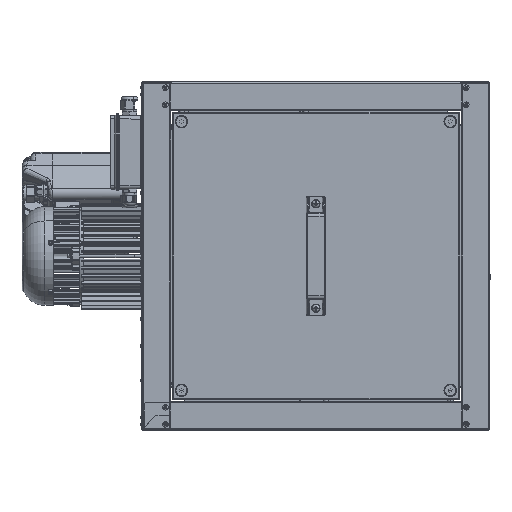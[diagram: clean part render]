
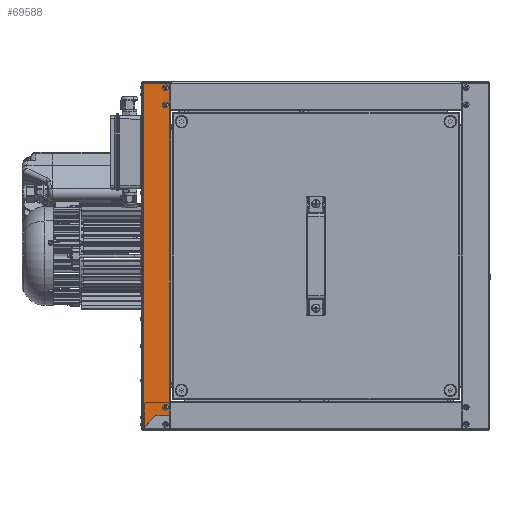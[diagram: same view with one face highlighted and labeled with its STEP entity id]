
A CAD part, left-side view. The second image highlights one B-rep face of the part: STEP entity #69588.
In plain terms, the highlighted planar face has unit normal (-1, 0, 0).
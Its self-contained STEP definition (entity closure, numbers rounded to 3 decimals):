
#478 = EDGE_CURVE ( 'NONE', #45723, #86056, #52253, .T. ) ;
#682 = AXIS2_PLACEMENT_3D ( 'NONE', #77820, #16015, #88261 ) ;
#1543 = VERTEX_POINT ( 'NONE', #17114 ) ;
#2899 = LINE ( 'NONE', #118505, #133690 ) ;
#4737 = DIRECTION ( 'NONE',  ( -1., 0., 0. ) ) ;
#5638 = VERTEX_POINT ( 'NONE', #110976 ) ;
#5734 = ORIENTED_EDGE ( 'NONE', *, *, #61051, .T. ) ;
#5965 = FACE_BOUND ( 'NONE', #29570, .T. ) ;
#6253 = CARTESIAN_POINT ( 'NONE',  ( -250., 248., 248. ) ) ;
#6944 = AXIS2_PLACEMENT_3D ( 'NONE', #104564, #125286, #46707 ) ;
#9252 = FACE_OUTER_BOUND ( 'NONE', #44611, .T. ) ;
#13861 = ORIENTED_EDGE ( 'NONE', *, *, #29785, .F. ) ;
#13980 = CARTESIAN_POINT ( 'NONE',  ( -250., 210.7, -210.05 ) ) ;
#14455 = VECTOR ( 'NONE', #125288, 1000. ) ;
#15220 = CARTESIAN_POINT ( 'NONE',  ( -250., 210.2, -229.1 ) ) ;
#15346 = VERTEX_POINT ( 'NONE', #131960 ) ;
#16015 = DIRECTION ( 'NONE',  ( -1., 0., 0. ) ) ;
#16093 = CARTESIAN_POINT ( 'NONE',  ( -250., 248., 248.95 ) ) ;
#16472 = DIRECTION ( 'NONE',  ( 0., 1., 0. ) ) ;
#16616 = DIRECTION ( 'NONE',  ( -1., 0., 0. ) ) ;
#17114 = CARTESIAN_POINT ( 'NONE',  ( -250., 210.2, -210.05 ) ) ;
#17223 = VERTEX_POINT ( 'NONE', #67642 ) ;
#18063 = VERTEX_POINT ( 'NONE', #59134 ) ;
#19103 = ORIENTED_EDGE ( 'NONE', *, *, #125188, .T. ) ;
#20133 = VERTEX_POINT ( 'NONE', #59035 ) ;
#21308 = ORIENTED_EDGE ( 'NONE', *, *, #125317, .T. ) ;
#21849 = DIRECTION ( 'NONE',  ( -1., 0., 0. ) ) ;
#23789 = VECTOR ( 'NONE', #16472, 1000. ) ;
#25619 = DIRECTION ( 'NONE',  ( 0., -1., 0. ) ) ;
#26824 = CARTESIAN_POINT ( 'NONE',  ( -250., 210.7, -210.05 ) ) ;
#27704 = CARTESIAN_POINT ( 'NONE',  ( -250., 210.2, -210.05 ) ) ;
#28616 = CIRCLE ( 'NONE', #49507, 2.1 ) ;
#29011 = CARTESIAN_POINT ( 'NONE',  ( -250., 216., 217.2 ) ) ;
#29444 = DIRECTION ( 'NONE',  ( 0., 1., 0. ) ) ;
#29510 = CIRCLE ( 'NONE', #55984, 2.1 ) ;
#29537 = LINE ( 'NONE', #15220, #108612 ) ;
#29570 = EDGE_LOOP ( 'NONE', ( #84081, #75514 ) ) ;
#29785 = EDGE_CURVE ( 'NONE', #18063, #45254, #79105, .T. ) ;
#31989 = EDGE_LOOP ( 'NONE', ( #87310, #123471 ) ) ;
#33372 = FACE_BOUND ( 'NONE', #57392, .T. ) ;
#36059 = CARTESIAN_POINT ( 'NONE',  ( -250., 213.9, 217.2 ) ) ;
#36177 = ORIENTED_EDGE ( 'NONE', *, *, #103332, .F. ) ;
#37910 = CIRCLE ( 'NONE', #45535, 2.1 ) ;
#38052 = DIRECTION ( 'NONE',  ( 0., 0., 1. ) ) ;
#39249 = VECTOR ( 'NONE', #116748, 1000. ) ;
#39392 = DIRECTION ( 'NONE',  ( 0., -1., 0. ) ) ;
#42463 = LINE ( 'NONE', #106357, #39249 ) ;
#42913 = VECTOR ( 'NONE', #38052, 1000. ) ;
#43568 = CARTESIAN_POINT ( 'NONE',  ( -250., 248., -247.35 ) ) ;
#44611 = EDGE_LOOP ( 'NONE', ( #19103, #87133, #56760, #21308, #5734, #74890, #13861, #89583, #129060 ) ) ;
#45254 = VERTEX_POINT ( 'NONE', #13980 ) ;
#45535 = AXIS2_PLACEMENT_3D ( 'NONE', #66529, #4737, #76920 ) ;
#45723 = VERTEX_POINT ( 'NONE', #125725 ) ;
#45925 = EDGE_CURVE ( 'NONE', #129353, #112020, #63837, .T. ) ;
#46707 = DIRECTION ( 'NONE',  ( 0., -1., 0. ) ) ;
#49254 = CARTESIAN_POINT ( 'NONE',  ( -250., 250., 248.95 ) ) ;
#49507 = AXIS2_PLACEMENT_3D ( 'NONE', #29011, #101185, #39392 ) ;
#51641 = VECTOR ( 'NONE', #108672, 1000. ) ;
#51738 = CARTESIAN_POINT ( 'NONE',  ( -250., 213.9, 241.7 ) ) ;
#52253 = CIRCLE ( 'NONE', #6944, 2.1 ) ;
#52568 = EDGE_CURVE ( 'NONE', #1543, #45254, #112597, .T. ) ;
#52995 = AXIS2_PLACEMENT_3D ( 'NONE', #49254, #91304, #29444 ) ;
#55098 = CARTESIAN_POINT ( 'NONE',  ( -250., 210.2, 211.65 ) ) ;
#55984 = AXIS2_PLACEMENT_3D ( 'NONE', #83671, #21849, #94034 ) ;
#56760 = ORIENTED_EDGE ( 'NONE', *, *, #115426, .F. ) ;
#57392 = EDGE_LOOP ( 'NONE', ( #36177, #133399 ) ) ;
#59035 = CARTESIAN_POINT ( 'NONE',  ( -250., 213.9, -217.2 ) ) ;
#59134 = CARTESIAN_POINT ( 'NONE',  ( -250., 210.7, 211.65 ) ) ;
#61051 = EDGE_CURVE ( 'NONE', #5638, #1543, #118769, .T. ) ;
#61622 = VERTEX_POINT ( 'NONE', #103283 ) ;
#62658 = VERTEX_POINT ( 'NONE', #64401 ) ;
#63474 = CARTESIAN_POINT ( 'NONE',  ( -250., 210.7, 211.65 ) ) ;
#63837 = LINE ( 'NONE', #16093, #88139 ) ;
#64401 = CARTESIAN_POINT ( 'NONE',  ( -250., 218.1, 217.2 ) ) ;
#66197 = EDGE_CURVE ( 'NONE', #18063, #99000, #69359, .T. ) ;
#66529 = CARTESIAN_POINT ( 'NONE',  ( -250., 216., 241.7 ) ) ;
#67642 = CARTESIAN_POINT ( 'NONE',  ( -250., 210.2, 248. ) ) ;
#69359 = LINE ( 'NONE', #63474, #14455 ) ;
#69588 = ADVANCED_FACE ( 'NONE', ( #5965, #85095, #33372, #9252 ), #70038, .F. ) ;
#70038 = PLANE ( 'NONE',  #52995 ) ;
#72812 = VECTOR ( 'NONE', #116218, 1000. ) ;
#74689 = CARTESIAN_POINT ( 'NONE',  ( -250., 210.2, 211.65 ) ) ;
#74890 = ORIENTED_EDGE ( 'NONE', *, *, #52568, .T. ) ;
#75514 = ORIENTED_EDGE ( 'NONE', *, *, #86224, .F. ) ;
#76920 = DIRECTION ( 'NONE',  ( 0., -1., 0. ) ) ;
#77820 = CARTESIAN_POINT ( 'NONE',  ( -250., 216., -217.2 ) ) ;
#78382 = CARTESIAN_POINT ( 'NONE',  ( -250., 216., 217.2 ) ) ;
#79105 = LINE ( 'NONE', #108218, #51641 ) ;
#81226 = CIRCLE ( 'NONE', #90591, 2.1 ) ;
#83671 = CARTESIAN_POINT ( 'NONE',  ( -250., 216., -217.2 ) ) ;
#84081 = ORIENTED_EDGE ( 'NONE', *, *, #104868, .F. ) ;
#85095 = FACE_BOUND ( 'NONE', #31989, .T. ) ;
#86056 = VERTEX_POINT ( 'NONE', #51738 ) ;
#86224 = EDGE_CURVE ( 'NONE', #15346, #20133, #125295, .T. ) ;
#87133 = ORIENTED_EDGE ( 'NONE', *, *, #45925, .T. ) ;
#87310 = ORIENTED_EDGE ( 'NONE', *, *, #125370, .F. ) ;
#88139 = VECTOR ( 'NONE', #88332, 1000. ) ;
#88261 = DIRECTION ( 'NONE',  ( 0., -1., 0. ) ) ;
#88332 = DIRECTION ( 'NONE',  ( 0., 0., -1. ) ) ;
#88846 = DIRECTION ( 'NONE',  ( 0., -1., 0. ) ) ;
#89583 = ORIENTED_EDGE ( 'NONE', *, *, #66197, .T. ) ;
#90591 = AXIS2_PLACEMENT_3D ( 'NONE', #78382, #16616, #88846 ) ;
#91304 = DIRECTION ( 'NONE',  ( 1., 0., 0. ) ) ;
#94034 = DIRECTION ( 'NONE',  ( 0., -1., 0. ) ) ;
#95054 = VERTEX_POINT ( 'NONE', #36059 ) ;
#97787 = DIRECTION ( 'NONE',  ( 0., 0.707, -0.707 ) ) ;
#99000 = VERTEX_POINT ( 'NONE', #55098 ) ;
#101185 = DIRECTION ( 'NONE',  ( -1., 0., 0. ) ) ;
#103283 = CARTESIAN_POINT ( 'NONE',  ( -250., 229.75, -229.1 ) ) ;
#103332 = EDGE_CURVE ( 'NONE', #86056, #45723, #37910, .T. ) ;
#104564 = CARTESIAN_POINT ( 'NONE',  ( -250., 216., 241.7 ) ) ;
#104868 = EDGE_CURVE ( 'NONE', #20133, #15346, #29510, .T. ) ;
#106357 = CARTESIAN_POINT ( 'NONE',  ( -250., 210.2, 248. ) ) ;
#108218 = CARTESIAN_POINT ( 'NONE',  ( -250., 210.7, 248.95 ) ) ;
#108612 = VECTOR ( 'NONE', #25619, 1000. ) ;
#108672 = DIRECTION ( 'NONE',  ( 0., 0., -1. ) ) ;
#110976 = CARTESIAN_POINT ( 'NONE',  ( -250., 210.2, -229.1 ) ) ;
#112020 = VERTEX_POINT ( 'NONE', #43568 ) ;
#112049 = EDGE_CURVE ( 'NONE', #99000, #17223, #127692, .T. ) ;
#112597 = LINE ( 'NONE', #26824, #23789 ) ;
#115426 = EDGE_CURVE ( 'NONE', #61622, #112020, #2899, .T. ) ;
#116218 = DIRECTION ( 'NONE',  ( 0., 0., 1. ) ) ;
#116748 = DIRECTION ( 'NONE',  ( 0., 1., 0. ) ) ;
#118505 = CARTESIAN_POINT ( 'NONE',  ( -250., 249.1, -248.45 ) ) ;
#118769 = LINE ( 'NONE', #27704, #42913 ) ;
#122098 = EDGE_CURVE ( 'NONE', #62658, #95054, #28616, .T. ) ;
#123471 = ORIENTED_EDGE ( 'NONE', *, *, #122098, .F. ) ;
#125188 = EDGE_CURVE ( 'NONE', #17223, #129353, #42463, .T. ) ;
#125286 = DIRECTION ( 'NONE',  ( -1., 0., 0. ) ) ;
#125288 = DIRECTION ( 'NONE',  ( 0., -1., 0. ) ) ;
#125295 = CIRCLE ( 'NONE', #682, 2.1 ) ;
#125317 = EDGE_CURVE ( 'NONE', #61622, #5638, #29537, .T. ) ;
#125370 = EDGE_CURVE ( 'NONE', #95054, #62658, #81226, .T. ) ;
#125725 = CARTESIAN_POINT ( 'NONE',  ( -250., 218.1, 241.7 ) ) ;
#127692 = LINE ( 'NONE', #74689, #72812 ) ;
#129060 = ORIENTED_EDGE ( 'NONE', *, *, #112049, .T. ) ;
#129353 = VERTEX_POINT ( 'NONE', #6253 ) ;
#131960 = CARTESIAN_POINT ( 'NONE',  ( -250., 218.1, -217.2 ) ) ;
#133399 = ORIENTED_EDGE ( 'NONE', *, *, #478, .F. ) ;
#133690 = VECTOR ( 'NONE', #97787, 1000. ) ;
